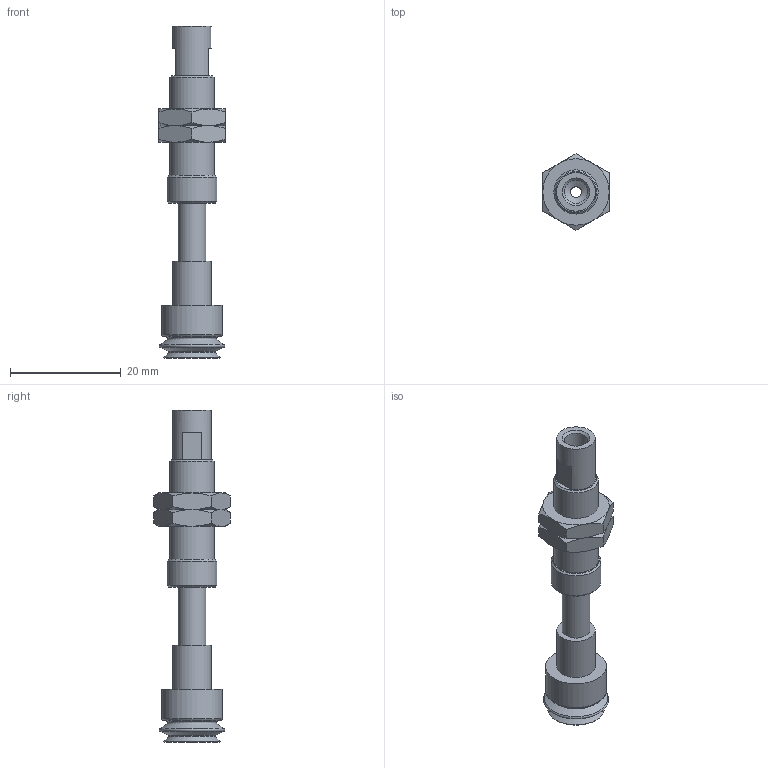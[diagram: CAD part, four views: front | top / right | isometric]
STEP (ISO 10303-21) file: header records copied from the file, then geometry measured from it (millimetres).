
FILE_DESCRIPTION(('STEP AP203'),'1');
FILE_NAME('-SPE.stp','2025-04-25T02:37:31',(' '),(' '),'Spatial InterOp 3D',' ',' ');
FILE_SCHEMA(('CONFIG_CONTROL_DESIGN'));
Length unit declared in the file: millimetre
Products named in the file (7): BNABPJTS-10-10-※-SPE; ZIG; BODY; NUT; TN-PF-15-M5; BPJG-10-_
Assembly tree (6 placements, depth 2):
  BNABPJTS-10-10-※-SPE
    ZIG
    BODY
    NUT
    NUT
    TN-PF-15-M5
    BPJG-10-_
Bounding box: 12 x 13.86 x 60 mm (x, y, z)
Volume: 2834.9 mm3; surface area: 4140.6 mm2
Topology: 6 solids, 6 shells, 114 faces, 240 edges, 147 vertices
Faces by surface type: plane 43, cone 43, cylinder 21, torus 7
Full cylindrical faces by diameter (mm): 2 x1, 2.5 x1, 4 x2, 4.2 x2, 4.6 x1, 5 x3, 5.2 x1, 6.266 x1, 7 x2, 7.25 x2, 7.8 x1, 8 x2, 9 x1, 11 x1
Entity records: 3092 total; most frequent: CARTESIAN_POINT 591, DIRECTION 464, ORIENTED_EDGE 356, AXIS2_PLACEMENT_3D 213, EDGE_LOOP 182, EDGE_CURVE 178, FACE_OUTER_BOUND 142, VERTEX_POINT 132
